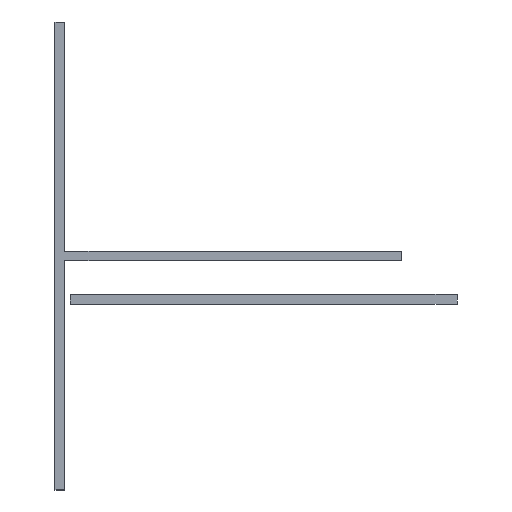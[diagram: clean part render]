
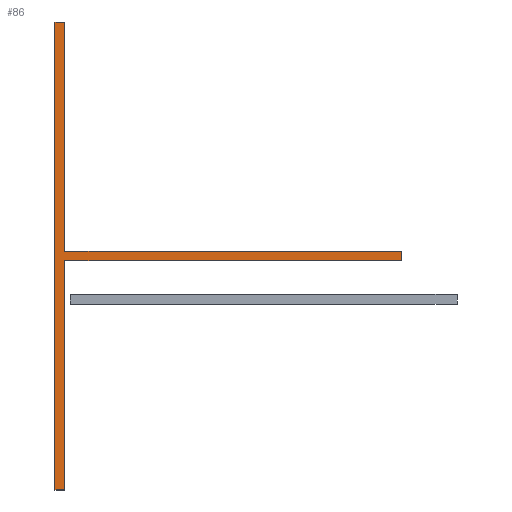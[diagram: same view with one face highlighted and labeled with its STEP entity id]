
A CAD part, top view. The second image highlights one B-rep face of the part: STEP entity #86.
In plain terms, the highlighted planar face has unit normal (0, 0, 1).
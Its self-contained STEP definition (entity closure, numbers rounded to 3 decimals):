
#86=ADVANCED_FACE('',(#226),#228,.T.);
#226=FACE_BOUND('',#227,.T.);
#227=EDGE_LOOP('',(#336,#337,#338,#339,#340,#341,#342,#343));
#228=PLANE('',#229);
#229=AXIS2_PLACEMENT_3D('',#230,#231,#232);
#230=CARTESIAN_POINT('',(0.,0.,0.8));
#231=DIRECTION('',(0.,0.,1.));
#232=DIRECTION('',(1.,0.,0.));
#336=ORIENTED_EDGE('',*,*,#407,.T.);
#337=ORIENTED_EDGE('',*,*,#408,.T.);
#338=ORIENTED_EDGE('',*,*,#409,.T.);
#339=ORIENTED_EDGE('',*,*,#410,.T.);
#340=ORIENTED_EDGE('',*,*,#411,.T.);
#341=ORIENTED_EDGE('',*,*,#412,.T.);
#342=ORIENTED_EDGE('',*,*,#413,.T.);
#343=ORIENTED_EDGE('',*,*,#396,.T.);
#396=EDGE_CURVE('',#432,#433,#434,.T.);
#407=EDGE_CURVE('',#433,#453,#454,.T.);
#408=EDGE_CURVE('',#453,#455,#456,.T.);
#409=EDGE_CURVE('',#455,#457,#458,.T.);
#410=EDGE_CURVE('',#457,#459,#460,.T.);
#411=EDGE_CURVE('',#459,#461,#462,.T.);
#412=EDGE_CURVE('',#461,#463,#464,.T.);
#413=EDGE_CURVE('',#463,#432,#465,.T.);
#432=VERTEX_POINT('',#492);
#433=VERTEX_POINT('',#493);
#434=LINE('',#494,#495);
#453=VERTEX_POINT('',#535);
#454=LINE('',#536,#537);
#455=VERTEX_POINT('',#539);
#456=LINE('',#540,#541);
#457=VERTEX_POINT('',#543);
#458=LINE('',#544,#545);
#459=VERTEX_POINT('',#547);
#460=LINE('',#548,#549);
#461=VERTEX_POINT('',#551);
#462=LINE('',#552,#553);
#463=VERTEX_POINT('',#555);
#464=LINE('',#556,#557);
#465=LINE('',#559,#560);
#492=CARTESIAN_POINT('',(-139.023,93.792,0.8));
#493=CARTESIAN_POINT('',(-139.023,-93.792,0.8));
#494=CARTESIAN_POINT('',(-139.023,93.792,0.8));
#495=VECTOR('',#496,1.);
#496=DIRECTION('',(0.,-1.,0.));
#535=CARTESIAN_POINT('',(-135.023,-93.792,0.8));
#536=CARTESIAN_POINT('',(-139.023,-93.792,0.8));
#537=VECTOR('',#538,1.);
#538=DIRECTION('',(1.,0.,0.));
#539=CARTESIAN_POINT('',(-135.023,-2.,0.8));
#540=CARTESIAN_POINT('',(-135.023,-93.792,0.8));
#541=VECTOR('',#542,1.);
#542=DIRECTION('',(0.,1.,0.));
#543=CARTESIAN_POINT('',(0.,-2.,0.8));
#544=CARTESIAN_POINT('',(-135.023,-2.,0.8));
#545=VECTOR('',#546,1.);
#546=DIRECTION('',(1.,0.,0.));
#547=CARTESIAN_POINT('',(0.,2.,0.8));
#548=CARTESIAN_POINT('',(0.,-2.,0.8));
#549=VECTOR('',#550,1.);
#550=DIRECTION('',(0.,1.,0.));
#551=CARTESIAN_POINT('',(-135.023,2.,0.8));
#552=CARTESIAN_POINT('',(0.,2.,0.8));
#553=VECTOR('',#554,1.);
#554=DIRECTION('',(-1.,0.,0.));
#555=CARTESIAN_POINT('',(-135.023,93.792,0.8));
#556=CARTESIAN_POINT('',(-135.023,2.,0.8));
#557=VECTOR('',#558,1.);
#558=DIRECTION('',(0.,1.,0.));
#559=CARTESIAN_POINT('',(-135.023,93.792,0.8));
#560=VECTOR('',#561,1.);
#561=DIRECTION('',(-1.,0.,0.));
